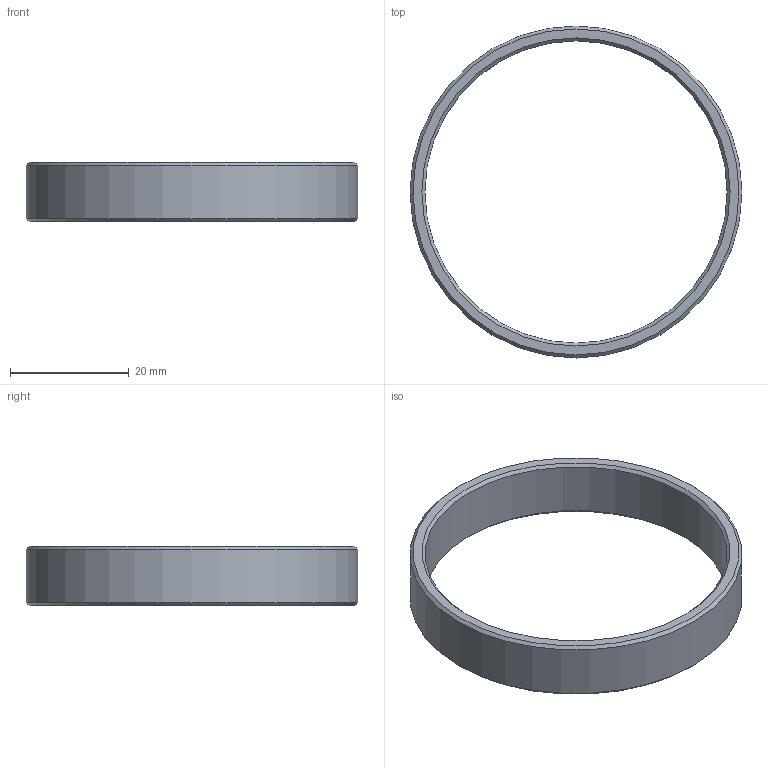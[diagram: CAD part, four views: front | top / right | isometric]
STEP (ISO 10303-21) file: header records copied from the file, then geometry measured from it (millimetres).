
FILE_DESCRIPTION(/* description */ (''),/* implementation_level */ '2;1');
FILE_NAME(/* name */ 'C:\Users\jbart\OneDrive\Plocha\Nová složka\3D modely - stp\Distanční kroužek.stp',/* time_stamp */ '2025-05-15T16:47:45+02:00',/* author */ ('jbart'),/* organization */ (''),/* preprocessor_version */ 'ST-DEVELOPER v18.1',/* originating_system */ 'Autodesk Inventor 2022',/* authorisation */ '');
FILE_SCHEMA (('AUTOMOTIVE_DESIGN { 1 0 10303 214 3 1 1 }'));
Length unit declared in the file: millimetre
Products named in the file (1): Distanční kroužek I
Bounding box: 56 x 56 x 10 mm (x, y, z)
Volume: 4117.8 mm3; surface area: 4005 mm2
Topology: 1 solids, 1 shells, 8 faces, 16 edges, 10 vertices
Faces by surface type: cone 4, cylinder 2, plane 2
Full cylindrical faces by diameter (mm): 51 x1, 56 x1
Entity records: 257 total; most frequent: DIRECTION 44, CARTESIAN_POINT 35, ORIENTED_EDGE 32, AXIS2_PLACEMENT_3D 19, EDGE_CURVE 16, EDGE_LOOP 10, CIRCLE 10, VERTEX_POINT 10
